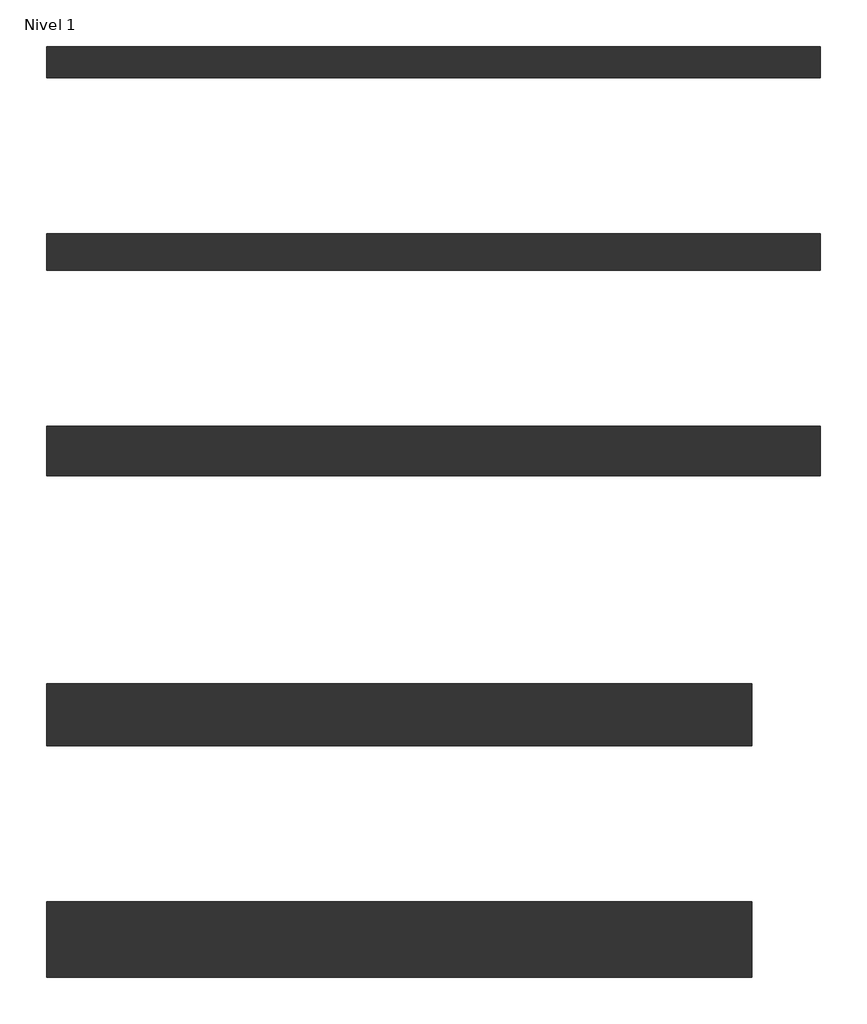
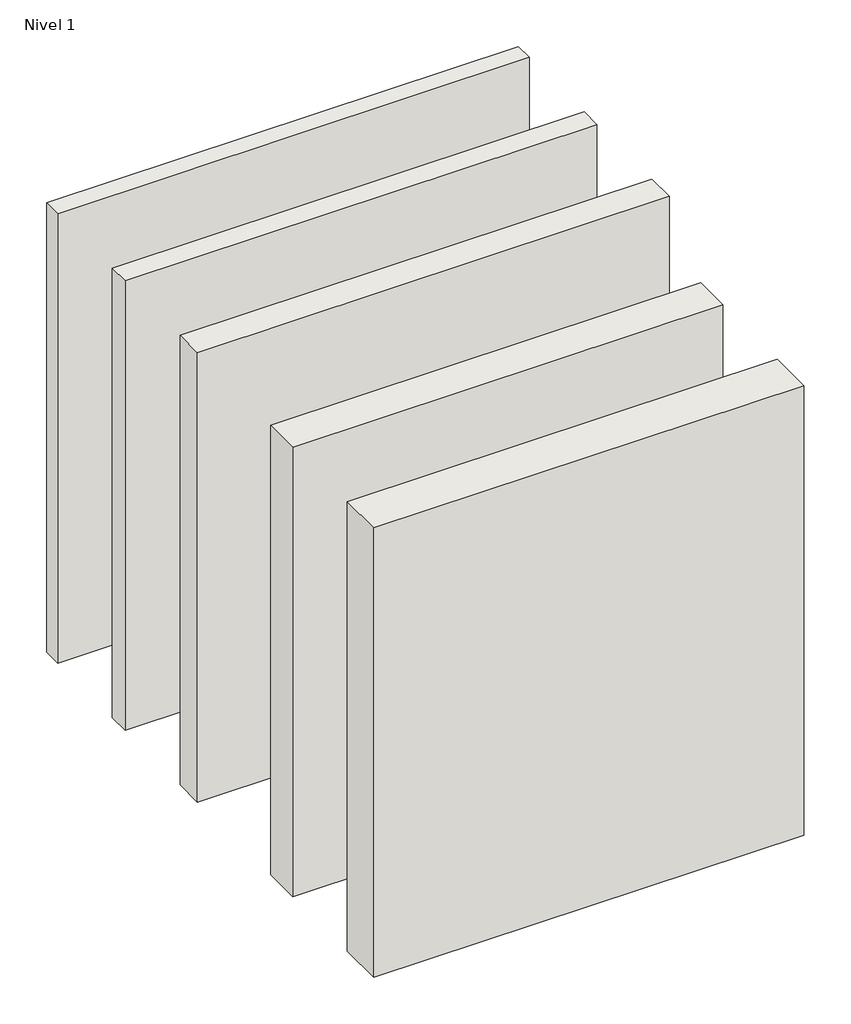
# One storey: 5 walls.
"""IFC4 building model written with IfcOpenShell, lengths in millimetres."""

from ifc_helpers import new_model, si_unit, origin, origin_with_axes, place, context, project, spatial, polyline, outline, extrude, element, save

model = new_model("IFC4")

# Units and contexts
model_context = context("Model", 3, world=origin())
ifc_project = project(units=[si_unit("LENGTHUNIT", "METRE", prefix="MILLI")], contexts=[model_context])

# Site, building, storey
site = spatial("IfcSite", under=ifc_project)
building = spatial("IfcBuilding", under=site)
storey = spatial("IfcBuildingStorey", under=building, Name="Nivel 1", Elevation=0.0)

# Walls
placement = place(None, origin())
element("IfcWall", 1, ObjectType="E07BAT361_CeramicaSampedro_FabricaBloqueRectificado_ECOrec_CITY12_RVT2021_300V01ES", at=placement, inside=storey, context=model_context, shape_type="SweptSolid", body=[
    extrude(outline(polyline([(4452.7694556, 6696.9322098), (1474.6970449, 6696.9322098), (1474.6970449, 6816.9322098), (4452.7694556, 6816.9322098), (4452.7694556, 6696.9322098)])), origin_with_axes(), (0.0, 0.0, 1.0), 3000.0),
])
element("IfcWall", 2, ObjectType="E07BAT371_CeramicaSampedro_FabricaBloqueRectificado_ECOrec_CITY14_RVT2021_300V01ES", at=placement, inside=storey, context=model_context, shape_type="SweptSolid", body=[
    extrude(outline(polyline([(4452.7694556, 5956.9322098), (1474.6970449, 5956.9322098), (1474.6970449, 6096.9322098), (4452.7694556, 6096.9322098), (4452.7694556, 5956.9322098)])), origin_with_axes(), (0.0, 0.0, 1.0), 3000.0),
])
element("IfcWall", 3, ObjectType="E07BAT381_CeramicaSampedro_FabricaBloqueRectificado_ECOrec_CITY19_RVT2021_300V01ES", at=placement, inside=storey, context=model_context, shape_type="SweptSolid", body=[
    extrude(outline(polyline([(4452.7694556, 5166.9322098), (1474.6970449, 5166.9322098), (1474.6970449, 5356.9322098), (4452.7694556, 5356.9322098), (4452.7694556, 5166.9322098)])), origin_with_axes(), (0.0, 0.0, 1.0), 3000.0),
])
element("IfcWall", 4, ObjectType="E07BAT391_CeramicaSampedro_FabricaBloqueRectificado_ECOrec_24_RVT2021_300V01ES", at=placement, inside=storey, context=model_context, shape_type="SweptSolid", body=[
    extrude(outline(polyline([(4189.6970449, 4126.9322098), (1474.6970449, 4126.9322098), (1474.6970449, 4366.9322098), (4189.6970449, 4366.9322098), (4189.6970449, 4126.9322098)])), origin_with_axes(), (0.0, 0.0, 1.0), 3000.0),
])
element("IfcWall", 5, ObjectType="E07BAT401_CeramicaSampedro_FabricaBloqueRectificado_ECOrec_29_RVT2021_300V01ES", at=placement, inside=storey, context=model_context, shape_type="SweptSolid", body=[
    extrude(outline(polyline([(4189.6970449, 3236.9322098), (1474.6970449, 3236.9322098), (1474.6970449, 3526.9322098), (4189.6970449, 3526.9322098), (4189.6970449, 3236.9322098)])), origin_with_axes(), (0.0, 0.0, 1.0), 3000.0),
])

save(model, "model.ifc")
